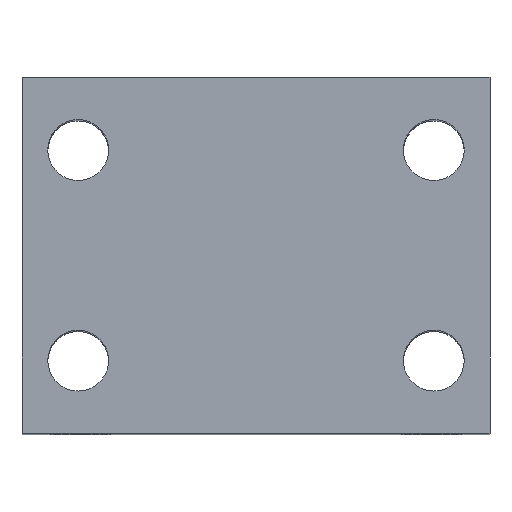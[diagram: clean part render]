
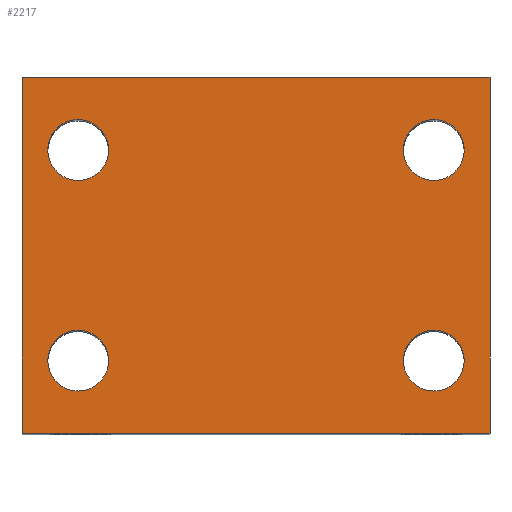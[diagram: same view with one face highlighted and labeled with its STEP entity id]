
A CAD part, top view. The second image highlights one B-rep face of the part: STEP entity #2217.
In plain terms, the highlighted planar face has unit normal (0, 0, 1).
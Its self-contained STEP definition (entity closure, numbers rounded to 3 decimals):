
#182 = LINE ( 'NONE', #16568, #6237 ) ;
#245 = AXIS2_PLACEMENT_3D ( 'NONE', #15171, #6983, #16605 ) ;
#576 = CIRCLE ( 'NONE', #12923, 6.5 ) ;
#810 = LINE ( 'NONE', #14575, #15410 ) ;
#816 = DIRECTION ( 'NONE',  ( 0., 0., -1. ) ) ;
#899 = CARTESIAN_POINT ( 'NONE',  ( 50., 76., 85. ) ) ;
#1720 = EDGE_LOOP ( 'NONE', ( #1770, #2290 ) ) ;
#1770 = ORIENTED_EDGE ( 'NONE', *, *, #3303, .T. ) ;
#2217 = ADVANCED_FACE ( 'NONE', ( #9782, #13439, #17183, #2992, #6202 ), #8796, .F. ) ;
#2290 = ORIENTED_EDGE ( 'NONE', *, *, #17615, .T. ) ;
#2503 = VERTEX_POINT ( 'NONE', #6184 ) ;
#2558 = LINE ( 'NONE', #14359, #13194 ) ;
#2992 = FACE_BOUND ( 'NONE', #1720, .T. ) ;
#3167 = VERTEX_POINT ( 'NONE', #9987 ) ;
#3265 = CARTESIAN_POINT ( 'NONE',  ( 44.5, 60.5, 85. ) ) ;
#3303 = EDGE_CURVE ( 'NONE', #10495, #3680, #576, .T. ) ;
#3375 = AXIS2_PLACEMENT_3D ( 'NONE', #15414, #7200, #16845 ) ;
#3413 = DIRECTION ( 'NONE',  ( 0., 0., -1. ) ) ;
#3449 = DIRECTION ( 'NONE',  ( 0., -1., 0. ) ) ;
#3621 = VECTOR ( 'NONE', #6190, 1000. ) ;
#3680 = VERTEX_POINT ( 'NONE', #3265 ) ;
#3748 = EDGE_CURVE ( 'NONE', #15690, #16952, #2558, .T. ) ;
#4184 = VERTEX_POINT ( 'NONE', #899 ) ;
#4526 = CARTESIAN_POINT ( 'NONE',  ( 38., 15.5, 85. ) ) ;
#4594 = CARTESIAN_POINT ( 'NONE',  ( 38., 15.5, 85. ) ) ;
#4995 = CARTESIAN_POINT ( 'NONE',  ( -50., 0., 85. ) ) ;
#5027 = CARTESIAN_POINT ( 'NONE',  ( 38., 60.5, 85. ) ) ;
#5040 = DIRECTION ( 'NONE',  ( 1., 0., 0. ) ) ;
#5179 = EDGE_LOOP ( 'NONE', ( #13476, #11061, #10582, #10086 ) ) ;
#5515 = EDGE_CURVE ( 'NONE', #3167, #11356, #13846, .T. ) ;
#5676 = EDGE_CURVE ( 'NONE', #13034, #13162, #9751, .T. ) ;
#5727 = VERTEX_POINT ( 'NONE', #10625 ) ;
#5853 = DIRECTION ( 'NONE',  ( -1., 0., 0. ) ) ;
#5923 = DIRECTION ( 'NONE',  ( -1., 0., 0. ) ) ;
#5985 = EDGE_CURVE ( 'NONE', #16952, #13012, #14058, .T. ) ;
#6107 = AXIS2_PLACEMENT_3D ( 'NONE', #14421, #6248, #15857 ) ;
#6184 = CARTESIAN_POINT ( 'NONE',  ( 44.5, 15.5, 85. ) ) ;
#6190 = DIRECTION ( 'NONE',  ( 1., 0., 0. ) ) ;
#6196 = CARTESIAN_POINT ( 'NONE',  ( -31.5, 60.5, 85. ) ) ;
#6202 = FACE_OUTER_BOUND ( 'NONE', #5179, .T. ) ;
#6237 = VECTOR ( 'NONE', #8281, 1000. ) ;
#6248 = DIRECTION ( 'NONE',  ( 0., 0., -1. ) ) ;
#6383 = DIRECTION ( 'NONE',  ( -1., 0., 0. ) ) ;
#6388 = EDGE_LOOP ( 'NONE', ( #11374, #12857 ) ) ;
#6754 = ORIENTED_EDGE ( 'NONE', *, *, #13534, .T. ) ;
#6896 = AXIS2_PLACEMENT_3D ( 'NONE', #10163, #3413, #12911 ) ;
#6959 = CIRCLE ( 'NONE', #8847, 6.5 ) ;
#6983 = DIRECTION ( 'NONE',  ( 0., 0., -1. ) ) ;
#7070 = DIRECTION ( 'NONE',  ( 0., 0., -1. ) ) ;
#7200 = DIRECTION ( 'NONE',  ( 0., 0., -1. ) ) ;
#7268 = CARTESIAN_POINT ( 'NONE',  ( -44.5, 60.5, 85. ) ) ;
#7271 = AXIS2_PLACEMENT_3D ( 'NONE', #15278, #7070, #16702 ) ;
#7732 = CARTESIAN_POINT ( 'NONE',  ( 31.5, 60.5, 85. ) ) ;
#7809 = CIRCLE ( 'NONE', #7953, 6.5 ) ;
#7859 = CIRCLE ( 'NONE', #16153, 6.5 ) ;
#7953 = AXIS2_PLACEMENT_3D ( 'NONE', #4526, #14020, #5853 ) ;
#8099 = CARTESIAN_POINT ( 'NONE',  ( -50., 76., 85. ) ) ;
#8281 = DIRECTION ( 'NONE',  ( 0., -1., 0. ) ) ;
#8796 = PLANE ( 'NONE',  #6896 ) ;
#8847 = AXIS2_PLACEMENT_3D ( 'NONE', #9008, #816, #10370 ) ;
#9008 = CARTESIAN_POINT ( 'NONE',  ( -38., 15.5, 85. ) ) ;
#9528 = EDGE_CURVE ( 'NONE', #11356, #3167, #6959, .T. ) ;
#9751 = CIRCLE ( 'NONE', #6107, 6.5 ) ;
#9766 = CIRCLE ( 'NONE', #7271, 6.5 ) ;
#9782 = FACE_BOUND ( 'NONE', #11719, .T. ) ;
#9833 = EDGE_CURVE ( 'NONE', #4184, #13012, #182, .T. ) ;
#9987 = CARTESIAN_POINT ( 'NONE',  ( -31.5, 15.5, 85. ) ) ;
#10086 = ORIENTED_EDGE ( 'NONE', *, *, #3748, .T. ) ;
#10163 = CARTESIAN_POINT ( 'NONE',  ( -50., 76., 85. ) ) ;
#10181 = CARTESIAN_POINT ( 'NONE',  ( -44.5, 15.5, 85. ) ) ;
#10370 = DIRECTION ( 'NONE',  ( -1., 0., 0. ) ) ;
#10495 = VERTEX_POINT ( 'NONE', #7732 ) ;
#10582 = ORIENTED_EDGE ( 'NONE', *, *, #12926, .F. ) ;
#10609 = ORIENTED_EDGE ( 'NONE', *, *, #5676, .T. ) ;
#10625 = CARTESIAN_POINT ( 'NONE',  ( 31.5, 15.5, 85. ) ) ;
#11061 = ORIENTED_EDGE ( 'NONE', *, *, #9833, .F. ) ;
#11356 = VERTEX_POINT ( 'NONE', #10181 ) ;
#11374 = ORIENTED_EDGE ( 'NONE', *, *, #14384, .T. ) ;
#11719 = EDGE_LOOP ( 'NONE', ( #10609, #6754 ) ) ;
#12189 = CARTESIAN_POINT ( 'NONE',  ( 50., 0., 85. ) ) ;
#12610 = ORIENTED_EDGE ( 'NONE', *, *, #9528, .T. ) ;
#12857 = ORIENTED_EDGE ( 'NONE', *, *, #17269, .T. ) ;
#12911 = DIRECTION ( 'NONE',  ( -1., 0., 0. ) ) ;
#12923 = AXIS2_PLACEMENT_3D ( 'NONE', #5027, #14558, #6383 ) ;
#12926 = EDGE_CURVE ( 'NONE', #15690, #4184, #810, .T. ) ;
#13012 = VERTEX_POINT ( 'NONE', #12189 ) ;
#13034 = VERTEX_POINT ( 'NONE', #7268 ) ;
#13162 = VERTEX_POINT ( 'NONE', #6196 ) ;
#13194 = VECTOR ( 'NONE', #3449, 1000. ) ;
#13439 = FACE_BOUND ( 'NONE', #14314, .T. ) ;
#13476 = ORIENTED_EDGE ( 'NONE', *, *, #5985, .T. ) ;
#13534 = EDGE_CURVE ( 'NONE', #13162, #13034, #9766, .T. ) ;
#13846 = CIRCLE ( 'NONE', #3375, 6.5 ) ;
#14020 = DIRECTION ( 'NONE',  ( 0., 0., -1. ) ) ;
#14058 = LINE ( 'NONE', #15799, #3621 ) ;
#14091 = DIRECTION ( 'NONE',  ( 0., 0., -1. ) ) ;
#14314 = EDGE_LOOP ( 'NONE', ( #12610, #16326 ) ) ;
#14359 = CARTESIAN_POINT ( 'NONE',  ( -50., 76., 85. ) ) ;
#14384 = EDGE_CURVE ( 'NONE', #5727, #2503, #7859, .T. ) ;
#14421 = CARTESIAN_POINT ( 'NONE',  ( -38., 60.5, 85. ) ) ;
#14558 = DIRECTION ( 'NONE',  ( 0., 0., -1. ) ) ;
#14575 = CARTESIAN_POINT ( 'NONE',  ( -50., 76., 85. ) ) ;
#15171 = CARTESIAN_POINT ( 'NONE',  ( 38., 60.5, 85. ) ) ;
#15278 = CARTESIAN_POINT ( 'NONE',  ( -38., 60.5, 85. ) ) ;
#15327 = CIRCLE ( 'NONE', #245, 6.5 ) ;
#15410 = VECTOR ( 'NONE', #5040, 1000. ) ;
#15414 = CARTESIAN_POINT ( 'NONE',  ( -38., 15.5, 85. ) ) ;
#15690 = VERTEX_POINT ( 'NONE', #8099 ) ;
#15799 = CARTESIAN_POINT ( 'NONE',  ( -50., 0., 85. ) ) ;
#15857 = DIRECTION ( 'NONE',  ( -1., 0., 0. ) ) ;
#16153 = AXIS2_PLACEMENT_3D ( 'NONE', #4594, #14091, #5923 ) ;
#16326 = ORIENTED_EDGE ( 'NONE', *, *, #5515, .T. ) ;
#16568 = CARTESIAN_POINT ( 'NONE',  ( 50., 76., 85. ) ) ;
#16605 = DIRECTION ( 'NONE',  ( -1., 0., 0. ) ) ;
#16702 = DIRECTION ( 'NONE',  ( -1., 0., 0. ) ) ;
#16845 = DIRECTION ( 'NONE',  ( -1., 0., 0. ) ) ;
#16952 = VERTEX_POINT ( 'NONE', #4995 ) ;
#17183 = FACE_BOUND ( 'NONE', #6388, .T. ) ;
#17269 = EDGE_CURVE ( 'NONE', #2503, #5727, #7809, .T. ) ;
#17615 = EDGE_CURVE ( 'NONE', #3680, #10495, #15327, .T. ) ;
